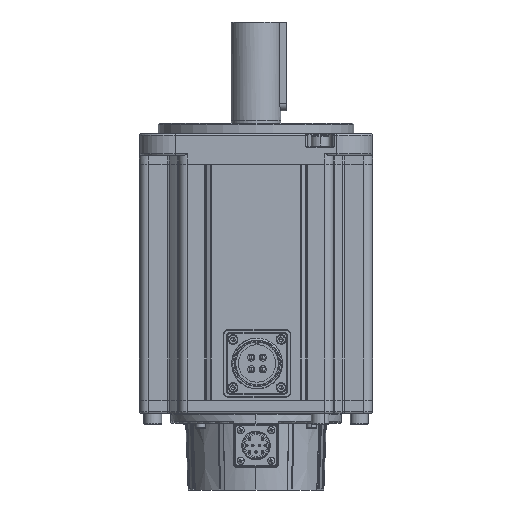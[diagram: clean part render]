
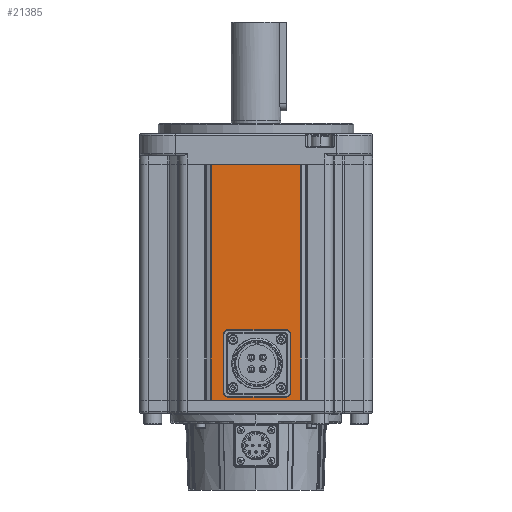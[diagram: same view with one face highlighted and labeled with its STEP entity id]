
A CAD part, front view. The second image highlights one B-rep face of the part: STEP entity #21385.
In plain terms, the highlighted planar face has unit normal (0, -1, 0) as drawn and (0, 1, 0) by its records, which use the part's own axes.
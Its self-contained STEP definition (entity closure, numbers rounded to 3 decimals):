
#232 = CARTESIAN_POINT ( 'NONE',  ( 14.1, 65.5, 125.35 ) ) ;
#1242 = CARTESIAN_POINT ( 'NONE',  ( -14.1, 65.5, 127.85 ) ) ;
#1546 = EDGE_CURVE ( 'NONE', #7409, #26353, #21613, .T. ) ;
#1671 = AXIS2_PLACEMENT_3D ( 'NONE', #63158, #31175, #68967 ) ;
#1716 = VERTEX_POINT ( 'NONE', #51268 ) ;
#2599 = CARTESIAN_POINT ( 'NONE',  ( 14.1, 65.5, 126.6 ) ) ;
#3254 = AXIS2_PLACEMENT_3D ( 'NONE', #16683, #9503, #35648 ) ;
#3434 = EDGE_CURVE ( 'NONE', #46579, #15404, #30185, .T. ) ;
#3810 = EDGE_LOOP ( 'NONE', ( #46345, #61236 ) ) ;
#4043 = DIRECTION ( 'NONE',  ( 0., 0., 1. ) ) ;
#4950 = EDGE_CURVE ( 'NONE', #32558, #1716, #70301, .T. ) ;
#7409 = VERTEX_POINT ( 'NONE', #23023 ) ;
#9273 = EDGE_CURVE ( 'NONE', #9823, #68797, #10561, .T. ) ;
#9297 = CIRCLE ( 'NONE', #43319, 10. ) ;
#9503 = DIRECTION ( 'NONE',  ( 0., 1., 0. ) ) ;
#9823 = VERTEX_POINT ( 'NONE', #232 ) ;
#10469 = CARTESIAN_POINT ( 'NONE',  ( 0., 65.5, 106. ) ) ;
#10494 = EDGE_CURVE ( 'NONE', #1716, #32558, #9297, .T. ) ;
#10561 = CIRCLE ( 'NONE', #32791, 1.25 ) ;
#11229 = DIRECTION ( 'NONE',  ( 0., 0., 1. ) ) ;
#11438 = LINE ( 'NONE', #32744, #29113 ) ;
#11995 = DIRECTION ( 'NONE',  ( 0., 0., 1. ) ) ;
#13008 = FACE_BOUND ( 'NONE', #65854, .T. ) ;
#13193 = DIRECTION ( 'NONE',  ( 0., 0., 1. ) ) ;
#13198 = CIRCLE ( 'NONE', #67206, 1.25 ) ;
#13510 = AXIS2_PLACEMENT_3D ( 'NONE', #20733, #39930, #27605 ) ;
#15404 = VERTEX_POINT ( 'NONE', #39400 ) ;
#15569 = VECTOR ( 'NONE', #25203, 1000. ) ;
#16068 = DIRECTION ( 'NONE',  ( 0., 1., 0. ) ) ;
#16116 = DIRECTION ( 'NONE',  ( 0., 1., 0. ) ) ;
#16683 = CARTESIAN_POINT ( 'NONE',  ( -14.1, 65.5, 98.4 ) ) ;
#17578 = CARTESIAN_POINT ( 'NONE',  ( -25.2, 65.5, 132.5 ) ) ;
#18679 = DIRECTION ( 'NONE',  ( 0., 0., 1. ) ) ;
#20733 = CARTESIAN_POINT ( 'NONE',  ( -25.5, 65.5, 132.5 ) ) ;
#20831 = VERTEX_POINT ( 'NONE', #21053 ) ;
#20937 = CARTESIAN_POINT ( 'NONE',  ( 25.2, 65.5, 132.5 ) ) ;
#21053 = CARTESIAN_POINT ( 'NONE',  ( -14.1, 65.5, 99.65 ) ) ;
#21385 = ADVANCED_FACE ( 'NONE', ( #33659, #48520, #13008, #61317, #44529, #27793 ), #58718, .F. ) ;
#21613 = CIRCLE ( 'NONE', #74542, 1.25 ) ;
#22084 = VERTEX_POINT ( 'NONE', #64137 ) ;
#22958 = DIRECTION ( 'NONE',  ( 0., 0., 1. ) ) ;
#23023 = CARTESIAN_POINT ( 'NONE',  ( 14.1, 65.5, 99.65 ) ) ;
#23050 = CARTESIAN_POINT ( 'NONE',  ( -25.2, 65.5, 0. ) ) ;
#23508 = EDGE_LOOP ( 'NONE', ( #45245, #32062 ) ) ;
#23820 = ORIENTED_EDGE ( 'NONE', *, *, #25312, .F. ) ;
#24935 = CARTESIAN_POINT ( 'NONE',  ( 25.2, 65.5, 132.5 ) ) ;
#25203 = DIRECTION ( 'NONE',  ( 0., 0., -1. ) ) ;
#25312 = EDGE_CURVE ( 'NONE', #56497, #22084, #11438, .T. ) ;
#25584 = ORIENTED_EDGE ( 'NONE', *, *, #45081, .T. ) ;
#26353 = VERTEX_POINT ( 'NONE', #81521 ) ;
#26531 = ORIENTED_EDGE ( 'NONE', *, *, #10494, .F. ) ;
#27605 = DIRECTION ( 'NONE',  ( 0., 0., -1. ) ) ;
#27793 = FACE_OUTER_BOUND ( 'NONE', #55126, .T. ) ;
#28224 = AXIS2_PLACEMENT_3D ( 'NONE', #79551, #41761, #4043 ) ;
#28654 = EDGE_LOOP ( 'NONE', ( #26531, #29649 ) ) ;
#29113 = VECTOR ( 'NONE', #69743, 1000. ) ;
#29581 = EDGE_CURVE ( 'NONE', #56497, #31762, #57033, .T. ) ;
#29649 = ORIENTED_EDGE ( 'NONE', *, *, #4950, .F. ) ;
#29936 = EDGE_CURVE ( 'NONE', #31762, #78691, #73743, .T. ) ;
#30185 = CIRCLE ( 'NONE', #1671, 1.25 ) ;
#31175 = DIRECTION ( 'NONE',  ( 0., 1., 0. ) ) ;
#31727 = VERTEX_POINT ( 'NONE', #66425 ) ;
#31762 = VERTEX_POINT ( 'NONE', #45767 ) ;
#32062 = ORIENTED_EDGE ( 'NONE', *, *, #9273, .F. ) ;
#32558 = VERTEX_POINT ( 'NONE', #10469 ) ;
#32721 = EDGE_CURVE ( 'NONE', #26353, #7409, #36724, .T. ) ;
#32744 = CARTESIAN_POINT ( 'NONE',  ( -25.5, 65.5, 132.5 ) ) ;
#32791 = AXIS2_PLACEMENT_3D ( 'NONE', #36858, #42383, #42647 ) ;
#33659 = FACE_BOUND ( 'NONE', #3810, .T. ) ;
#35021 = CARTESIAN_POINT ( 'NONE',  ( 14.1, 65.5, 127.85 ) ) ;
#35648 = DIRECTION ( 'NONE',  ( 0., 0., 1. ) ) ;
#35837 = CARTESIAN_POINT ( 'NONE',  ( 14.1, 65.5, 98.4 ) ) ;
#36724 = CIRCLE ( 'NONE', #78322, 1.25 ) ;
#36858 = CARTESIAN_POINT ( 'NONE',  ( 14.1, 65.5, 126.6 ) ) ;
#38260 = ORIENTED_EDGE ( 'NONE', *, *, #29936, .T. ) ;
#39400 = CARTESIAN_POINT ( 'NONE',  ( -14.1, 65.5, 125.35 ) ) ;
#39930 = DIRECTION ( 'NONE',  ( 0., -1., 0. ) ) ;
#39980 = CARTESIAN_POINT ( 'NONE',  ( 0., 65.5, 116. ) ) ;
#41140 = VECTOR ( 'NONE', #49366, 1000. ) ;
#41761 = DIRECTION ( 'NONE',  ( 0., 1., 0. ) ) ;
#42383 = DIRECTION ( 'NONE',  ( 0., 1., 0. ) ) ;
#42647 = DIRECTION ( 'NONE',  ( 0., 0., 1. ) ) ;
#43319 = AXIS2_PLACEMENT_3D ( 'NONE', #39980, #46646, #52991 ) ;
#44529 = FACE_BOUND ( 'NONE', #28654, .T. ) ;
#44619 = AXIS2_PLACEMENT_3D ( 'NONE', #80923, #80644, #11995 ) ;
#45081 = EDGE_CURVE ( 'NONE', #78691, #22084, #49830, .T. ) ;
#45245 = ORIENTED_EDGE ( 'NONE', *, *, #46608, .F. ) ;
#45767 = CARTESIAN_POINT ( 'NONE',  ( 25.2, 65.5, 0. ) ) ;
#46345 = ORIENTED_EDGE ( 'NONE', *, *, #3434, .F. ) ;
#46579 = VERTEX_POINT ( 'NONE', #1242 ) ;
#46608 = EDGE_CURVE ( 'NONE', #68797, #9823, #13198, .T. ) ;
#46635 = ORIENTED_EDGE ( 'NONE', *, *, #29581, .T. ) ;
#46646 = DIRECTION ( 'NONE',  ( 0., 1., 0. ) ) ;
#48520 = FACE_BOUND ( 'NONE', #55088, .T. ) ;
#49366 = DIRECTION ( 'NONE',  ( -1., 0., 0. ) ) ;
#49830 = LINE ( 'NONE', #17578, #72498 ) ;
#50137 = AXIS2_PLACEMENT_3D ( 'NONE', #55876, #80986, #11229 ) ;
#50174 = DIRECTION ( 'NONE',  ( 0., 1., 0. ) ) ;
#50608 = EDGE_CURVE ( 'NONE', #20831, #31727, #73631, .T. ) ;
#51268 = CARTESIAN_POINT ( 'NONE',  ( 0., 65.5, 126. ) ) ;
#52991 = DIRECTION ( 'NONE',  ( 0., 0., 1. ) ) ;
#54059 = EDGE_CURVE ( 'NONE', #31727, #20831, #59626, .T. ) ;
#54594 = CARTESIAN_POINT ( 'NONE',  ( -25.5, 65.5, 0. ) ) ;
#55088 = EDGE_LOOP ( 'NONE', ( #64354, #58140 ) ) ;
#55126 = EDGE_LOOP ( 'NONE', ( #23820, #46635, #38260, #25584 ) ) ;
#55876 = CARTESIAN_POINT ( 'NONE',  ( -14.1, 65.5, 98.4 ) ) ;
#56497 = VERTEX_POINT ( 'NONE', #20937 ) ;
#57033 = LINE ( 'NONE', #24935, #15569 ) ;
#57770 = EDGE_CURVE ( 'NONE', #15404, #46579, #66076, .T. ) ;
#58140 = ORIENTED_EDGE ( 'NONE', *, *, #54059, .F. ) ;
#58402 = ORIENTED_EDGE ( 'NONE', *, *, #1546, .F. ) ;
#58718 = PLANE ( 'NONE',  #13510 ) ;
#59626 = CIRCLE ( 'NONE', #3254, 1.25 ) ;
#61236 = ORIENTED_EDGE ( 'NONE', *, *, #57770, .F. ) ;
#61317 = FACE_BOUND ( 'NONE', #23508, .T. ) ;
#63158 = CARTESIAN_POINT ( 'NONE',  ( -14.1, 65.5, 126.6 ) ) ;
#63603 = CARTESIAN_POINT ( 'NONE',  ( 14.1, 65.5, 98.4 ) ) ;
#64137 = CARTESIAN_POINT ( 'NONE',  ( -25.2, 65.5, 132.5 ) ) ;
#64354 = ORIENTED_EDGE ( 'NONE', *, *, #50608, .F. ) ;
#65854 = EDGE_LOOP ( 'NONE', ( #58402, #72190 ) ) ;
#66076 = CIRCLE ( 'NONE', #44619, 1.25 ) ;
#66425 = CARTESIAN_POINT ( 'NONE',  ( -14.1, 65.5, 97.15 ) ) ;
#67206 = AXIS2_PLACEMENT_3D ( 'NONE', #2599, #16116, #78665 ) ;
#68797 = VERTEX_POINT ( 'NONE', #35021 ) ;
#68967 = DIRECTION ( 'NONE',  ( 0., 0., 1. ) ) ;
#69743 = DIRECTION ( 'NONE',  ( -1., 0., 0. ) ) ;
#70301 = CIRCLE ( 'NONE', #28224, 10. ) ;
#72190 = ORIENTED_EDGE ( 'NONE', *, *, #32721, .F. ) ;
#72498 = VECTOR ( 'NONE', #18679, 1000. ) ;
#73631 = CIRCLE ( 'NONE', #50137, 1.25 ) ;
#73743 = LINE ( 'NONE', #54594, #41140 ) ;
#74542 = AXIS2_PLACEMENT_3D ( 'NONE', #35837, #16068, #22958 ) ;
#78322 = AXIS2_PLACEMENT_3D ( 'NONE', #63603, #50174, #13193 ) ;
#78665 = DIRECTION ( 'NONE',  ( 0., 0., 1. ) ) ;
#78691 = VERTEX_POINT ( 'NONE', #23050 ) ;
#79551 = CARTESIAN_POINT ( 'NONE',  ( 0., 65.5, 116. ) ) ;
#80644 = DIRECTION ( 'NONE',  ( 0., 1., 0. ) ) ;
#80923 = CARTESIAN_POINT ( 'NONE',  ( -14.1, 65.5, 126.6 ) ) ;
#80986 = DIRECTION ( 'NONE',  ( 0., 1., 0. ) ) ;
#81521 = CARTESIAN_POINT ( 'NONE',  ( 14.1, 65.5, 97.15 ) ) ;
